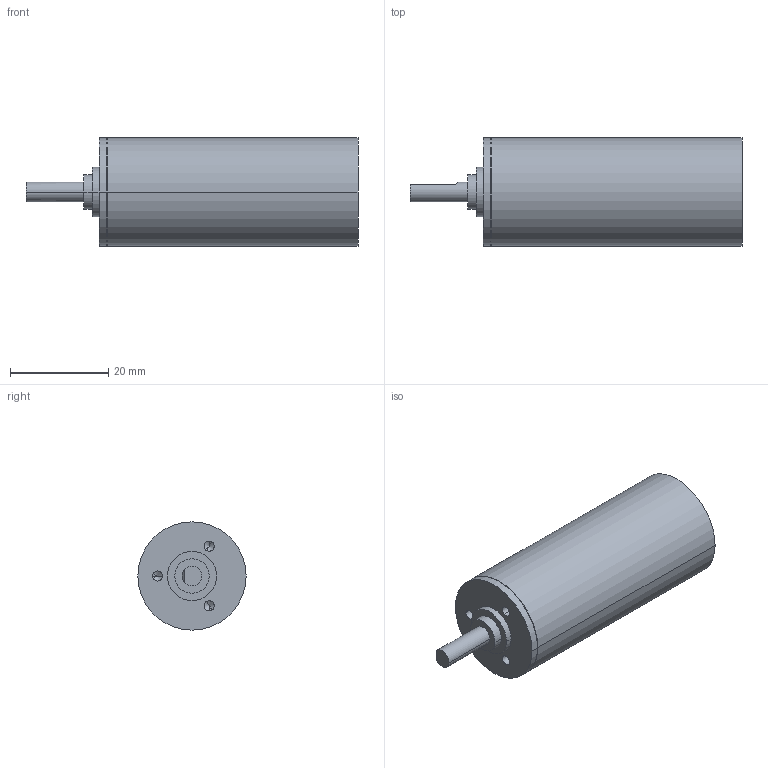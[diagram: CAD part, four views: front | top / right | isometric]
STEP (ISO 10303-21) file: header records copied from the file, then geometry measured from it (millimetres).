
FILE_DESCRIPTION((''),'2;1');
FILE_NAME('3562247','2016-10-04T',('mmagvisi'),(''),'CREO PARAMETRIC BY PTC INC, 2016050','CREO PARAMETRIC BY PTC INC, 2016050','');
FILE_SCHEMA(('CONFIG_CONTROL_DESIGN'));
Length unit declared in the file: millimetre
Products named in the file (1): 3562247
Bounding box: 67.45 x 22 x 22 mm (x, y, z)
Volume: 20247.1 mm3; surface area: 4742.3 mm2
Topology: 1 solids, 1 shells, 33 faces, 72 edges, 41 vertices
Faces by surface type: cylinder 16, cone 10, plane 7
Entity records: 1178 total; most frequent: DIRECTION 164, CARTESIAN_POINT 147, ORIENTED_EDGE 132, AXIS2_PLACEMENT_3D 67, PRESENTATION_STYLE_ASSIGNMENT 67, STYLED_ITEM 67, CURVE_STYLE 66, EDGE_CURVE 66
